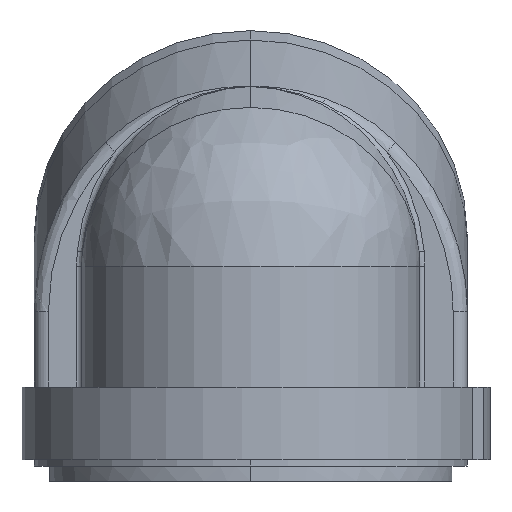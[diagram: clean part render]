
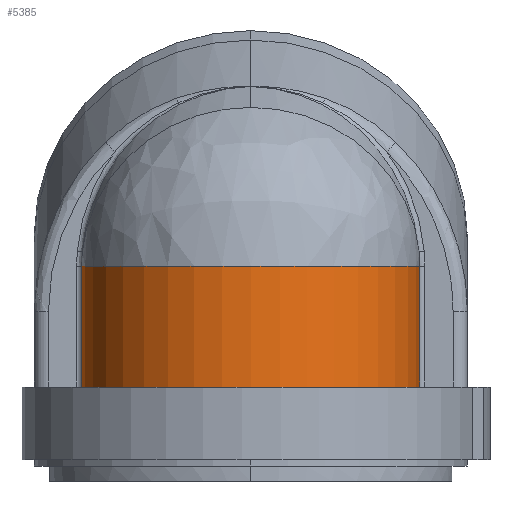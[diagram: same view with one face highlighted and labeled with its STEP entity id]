
A CAD part, front view. The second image highlights one B-rep face of the part: STEP entity #5385.
In plain terms, the highlighted cylindrical face has radius 48 mm (diameter 96 mm), a partial arc.
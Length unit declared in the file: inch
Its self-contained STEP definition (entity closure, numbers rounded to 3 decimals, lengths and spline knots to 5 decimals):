
#61 = EDGE_CURVE ( 'NONE', #5662, #2461, #6231, .T. ) ;
#442 = CARTESIAN_POINT ( 'NONE',  ( 1.8889, -0.05727, 3.40236 ) ) ;
#756 = AXIS2_PLACEMENT_3D ( 'NONE', #3660, #785, #1953 ) ;
#785 = DIRECTION ( 'NONE',  ( 0., 0., -1. ) ) ;
#917 = CARTESIAN_POINT ( 'NONE',  ( 0., 0., 4.75521 ) ) ;
#992 = DIRECTION ( 'NONE',  ( 0., 0., -1. ) ) ;
#1275 = DIRECTION ( 'NONE',  ( 0., 1., 0. ) ) ;
#1459 = FACE_OUTER_BOUND ( 'NONE', #4092, .T. ) ;
#1524 = VECTOR ( 'NONE', #3056, 39.37008 ) ;
#1916 = EDGE_CURVE ( 'NONE', #5746, #5662, #3350, .T. ) ;
#1952 = CARTESIAN_POINT ( 'NONE',  ( -1.8889, -0.05727, 9.64247 ) ) ;
#1953 = DIRECTION ( 'NONE',  ( 0., 1., 0. ) ) ;
#1963 = ORIENTED_EDGE ( 'NONE', *, *, #3911, .T. ) ;
#2395 = ORIENTED_EDGE ( 'NONE', *, *, #5581, .T. ) ;
#2461 = VERTEX_POINT ( 'NONE', #2984 ) ;
#2810 = DIRECTION ( 'NONE',  ( 0., 0., 1. ) ) ;
#2984 = CARTESIAN_POINT ( 'NONE',  ( -1.8889, -0.05727, 3.40236 ) ) ;
#3056 = DIRECTION ( 'NONE',  ( 0., 0., -1. ) ) ;
#3350 = CIRCLE ( 'NONE', #6168, 1.88976 ) ;
#3660 = CARTESIAN_POINT ( 'NONE',  ( 0., 0., 9.64247 ) ) ;
#3911 = EDGE_CURVE ( 'NONE', #4138, #5746, #5151, .T. ) ;
#4092 = EDGE_LOOP ( 'NONE', ( #2395, #1963, #6591, #5735 ) ) ;
#4098 = CARTESIAN_POINT ( 'NONE',  ( 1.8889, -0.05727, 9.64247 ) ) ;
#4138 = VERTEX_POINT ( 'NONE', #442 ) ;
#4287 = DIRECTION ( 'NONE',  ( 0., 1., 0. ) ) ;
#4619 = DIRECTION ( 'NONE',  ( 0., 0., 1. ) ) ;
#4702 = CARTESIAN_POINT ( 'NONE',  ( -1.8889, -0.05727, 4.75521 ) ) ;
#4838 = CIRCLE ( 'NONE', #5955, 1.88976 ) ;
#5151 = LINE ( 'NONE', #4098, #5156 ) ;
#5156 = VECTOR ( 'NONE', #4619, 39.37008 ) ;
#5385 = ADVANCED_FACE ( 'NONE', ( #1459 ), #5773, .T. ) ;
#5488 = CARTESIAN_POINT ( 'NONE',  ( 0., 0., 3.40236 ) ) ;
#5581 = EDGE_CURVE ( 'NONE', #2461, #4138, #4838, .T. ) ;
#5662 = VERTEX_POINT ( 'NONE', #4702 ) ;
#5735 = ORIENTED_EDGE ( 'NONE', *, *, #61, .T. ) ;
#5746 = VERTEX_POINT ( 'NONE', #6158 ) ;
#5773 = CYLINDRICAL_SURFACE ( 'NONE', #756, 1.88976 ) ;
#5955 = AXIS2_PLACEMENT_3D ( 'NONE', #5488, #2810, #1275 ) ;
#6158 = CARTESIAN_POINT ( 'NONE',  ( 1.8889, -0.05727, 4.75521 ) ) ;
#6168 = AXIS2_PLACEMENT_3D ( 'NONE', #917, #992, #4287 ) ;
#6231 = LINE ( 'NONE', #1952, #1524 ) ;
#6591 = ORIENTED_EDGE ( 'NONE', *, *, #1916, .T. ) ;
